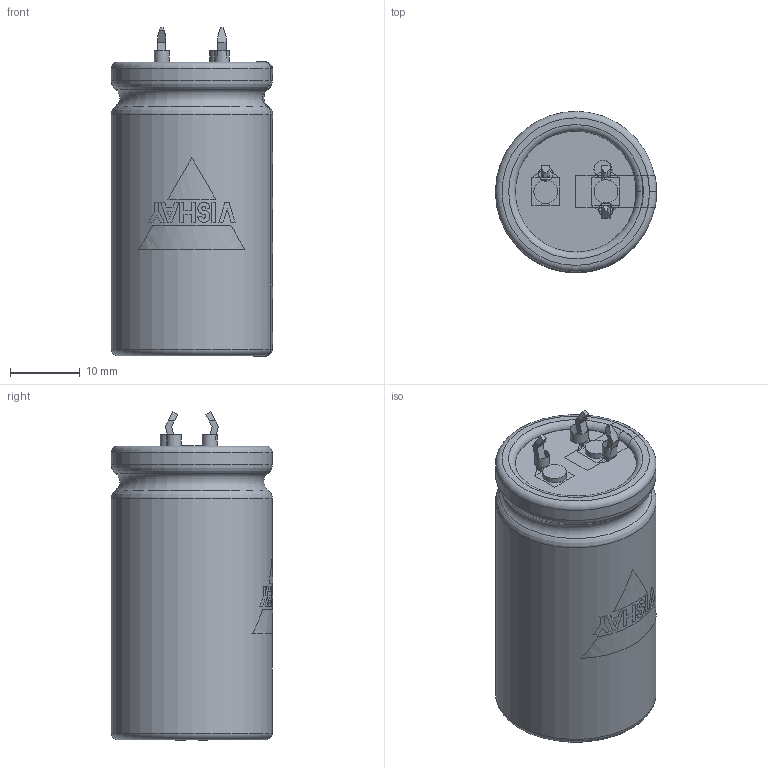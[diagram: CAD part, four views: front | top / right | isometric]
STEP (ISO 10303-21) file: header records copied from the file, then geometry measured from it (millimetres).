
FILE_DESCRIPTION(('FreeCAD Model'),'2;1');
FILE_NAME( 'C:/Users/Gebruiker/Documents/FreeCAD/SnapIn_22x40_3pin_4.0.step', '2020-11-12T21:06:39',('Author'),(''), 'Open CASCADE STEP processor 6.8','FreeCAD','Unknown');
FILE_SCHEMA(('AUTOMOTIVE_DESIGN_CC2 { 1 2 10303 214 -1 1 5 4 }'));
Length unit declared in the file: millimetre
Products named in the file (9): ASSEMBLY; TerminalPlus; Disc; BottomInsulation; Can3D; InkMinusBar; InkLogo; TerminalMinKP; PCBHolesKP
Assembly tree (8 placements, depth 2):
  ASSEMBLY
    TerminalPlus
    Disc
    BottomInsulation
    Can3D
    InkMinusBar
    InkLogo
    TerminalMinKP
    PCBHolesKP
Bounding box: 23.05 x 23.05 x 46.95 mm (x, y, z)
Volume: 19503.4 mm3; surface area: 8892 mm2
Topology: 17 solids, 17 shells, 217 faces, 539 edges, 352 vertices
Faces by surface type: plane 168, cylinder 31, torus 18
Full cylindrical faces by diameter (mm): 2 x2, 2.1 x2, 2.5 x1, 2.6 x1, 3.4 x2, 17.3 x1, 18.4 x2, 23 x2
Entity records: 21752 total; most frequent: CARTESIAN_POINT 9759, DIRECTION 1857, ORIENTED_EDGE 1078, PCURVE 1078, DEFINITIONAL_REPRESENTATION 1078, LINE 1046, VECTOR 1046, EDGE_CURVE 539
